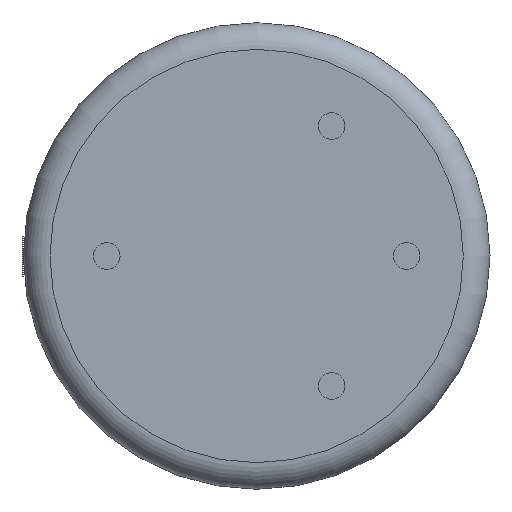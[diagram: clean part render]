
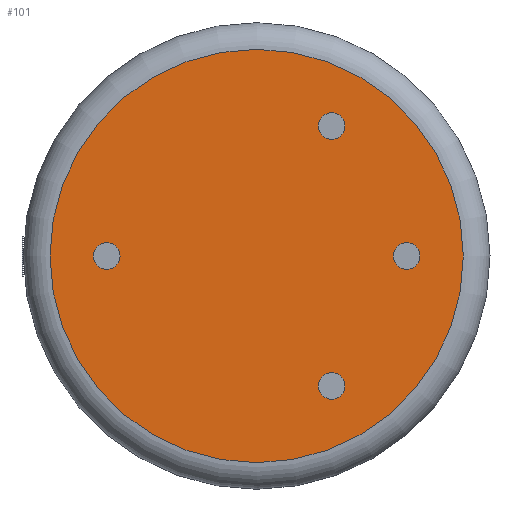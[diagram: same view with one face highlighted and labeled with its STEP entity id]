
A CAD part, left-side view. The second image highlights one B-rep face of the part: STEP entity #101.
In plain terms, the highlighted planar face has unit normal (-1, 0, 0).
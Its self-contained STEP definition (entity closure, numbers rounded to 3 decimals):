
#55 = VERTEX_POINT('',#56);
#56 = CARTESIAN_POINT('',(-31.5,15.5,0.));
#65 = EDGE_CURVE('',#55,#55,#66,.T.);
#66 = CIRCLE('',#67,15.5);
#67 = AXIS2_PLACEMENT_3D('',#68,#69,#70);
#68 = CARTESIAN_POINT('',(-31.5,0.,0.));
#69 = DIRECTION('',(1.,0.,0.));
#70 = DIRECTION('',(-0.,1.,0.));
#101 = ADVANCED_FACE('',(#102,#105,#116,#127,#138),#149,.F.);
#102 = FACE_BOUND('',#103,.F.);
#103 = EDGE_LOOP('',(#104));
#104 = ORIENTED_EDGE('',*,*,#65,.T.);
#105 = FACE_BOUND('',#106,.F.);
#106 = EDGE_LOOP('',(#107));
#107 = ORIENTED_EDGE('',*,*,#108,.T.);
#108 = EDGE_CURVE('',#109,#109,#111,.T.);
#109 = VERTEX_POINT('',#110);
#110 = CARTESIAN_POINT('',(-31.5,-6.625,-9.743));
#111 = CIRCLE('',#112,1.);
#112 = AXIS2_PLACEMENT_3D('',#113,#114,#115);
#113 = CARTESIAN_POINT('',(-31.5,-5.625,-9.743));
#114 = DIRECTION('',(-1.,0.,0.));
#115 = DIRECTION('',(0.,-1.,0.));
#116 = FACE_BOUND('',#117,.F.);
#117 = EDGE_LOOP('',(#118));
#118 = ORIENTED_EDGE('',*,*,#119,.T.);
#119 = EDGE_CURVE('',#120,#120,#122,.T.);
#120 = VERTEX_POINT('',#121);
#121 = CARTESIAN_POINT('',(-31.5,-12.25,0.));
#122 = CIRCLE('',#123,1.);
#123 = AXIS2_PLACEMENT_3D('',#124,#125,#126);
#124 = CARTESIAN_POINT('',(-31.5,-11.25,0.));
#125 = DIRECTION('',(-1.,0.,0.));
#126 = DIRECTION('',(0.,-1.,0.));
#127 = FACE_BOUND('',#128,.F.);
#128 = EDGE_LOOP('',(#129));
#129 = ORIENTED_EDGE('',*,*,#130,.T.);
#130 = EDGE_CURVE('',#131,#131,#133,.T.);
#131 = VERTEX_POINT('',#132);
#132 = CARTESIAN_POINT('',(-31.5,10.25,0.));
#133 = CIRCLE('',#134,1.);
#134 = AXIS2_PLACEMENT_3D('',#135,#136,#137);
#135 = CARTESIAN_POINT('',(-31.5,11.25,0.));
#136 = DIRECTION('',(-1.,0.,0.));
#137 = DIRECTION('',(0.,-1.,0.));
#138 = FACE_BOUND('',#139,.F.);
#139 = EDGE_LOOP('',(#140));
#140 = ORIENTED_EDGE('',*,*,#141,.T.);
#141 = EDGE_CURVE('',#142,#142,#144,.T.);
#142 = VERTEX_POINT('',#143);
#143 = CARTESIAN_POINT('',(-31.5,-6.625,9.743));
#144 = CIRCLE('',#145,1.);
#145 = AXIS2_PLACEMENT_3D('',#146,#147,#148);
#146 = CARTESIAN_POINT('',(-31.5,-5.625,9.743));
#147 = DIRECTION('',(-1.,0.,0.));
#148 = DIRECTION('',(0.,-1.,0.));
#149 = PLANE('',#150);
#150 = AXIS2_PLACEMENT_3D('',#151,#152,#153);
#151 = CARTESIAN_POINT('',(-31.5,0.,0.));
#152 = DIRECTION('',(1.,0.,0.));
#153 = DIRECTION('',(0.,1.,0.));
